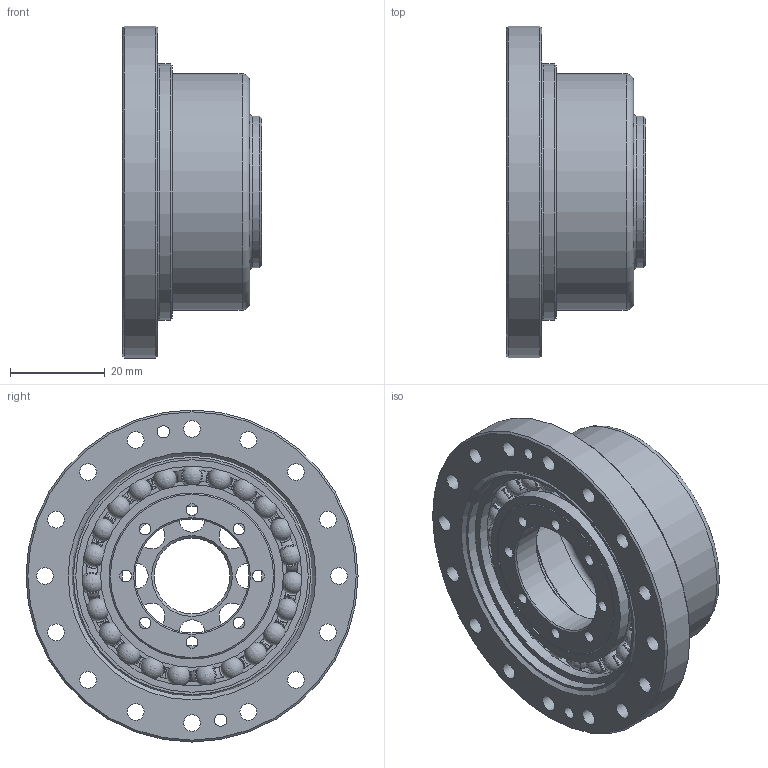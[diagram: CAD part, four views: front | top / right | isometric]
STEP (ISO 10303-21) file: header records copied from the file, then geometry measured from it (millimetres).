
FILE_DESCRIPTION(/* description */ (''),/* implementation_level */ '2;1');
FILE_NAME(/* name */ 'Getriebeset_CTG_51_HS.stp',/* time_stamp */ '2026-03-09T10:51:54+01:00',/* author */ (''),/* organization */ (''),/* preprocessor_version */ 'ST-DEVELOPER v19.4',/* originating_system */ 'SIEMENS PLM Software NX2212.9120',/* authorisation */ '');
FILE_SCHEMA (('AUTOMOTIVE_DESIGN { 1 0 10303 214 3 1 1 1 }'));
Length unit declared in the file: millimetre
Products named in the file (1): Getriebeset_CTG_51_HS
Bounding box: 29.4 x 70 x 70 mm (x, y, z)
Volume: 26783.7 mm3; surface area: 32630.8 mm2
Topology: 29 solids, 29 shells, 280 faces, 809 edges, 547 vertices
Faces by surface type: cylinder 93, plane 59, torus 46, cone 45, sphere 35, bspline 2
Full cylindrical faces by diameter (mm): 2.5 x8, 2.6 x4, 3.5 x16, 5.5 x8, 16 x1, 24 x1, 32 x2, 35 x2, 38.5 x3, 43.5 x1, 46.3 x2, 49 x2, 49.9 x1, 50.5 x1, 51.2 x1, 54 x1, 70 x1
Entity records: 11784 total; most frequent: CARTESIAN_POINT 5211, ORIENTED_EDGE 1224, DIRECTION 1214, EDGE_CURVE 612, AXIS2_PLACEMENT_3D 569, VERTEX_POINT 475, EDGE_LOOP 426, CIRCLE 290
